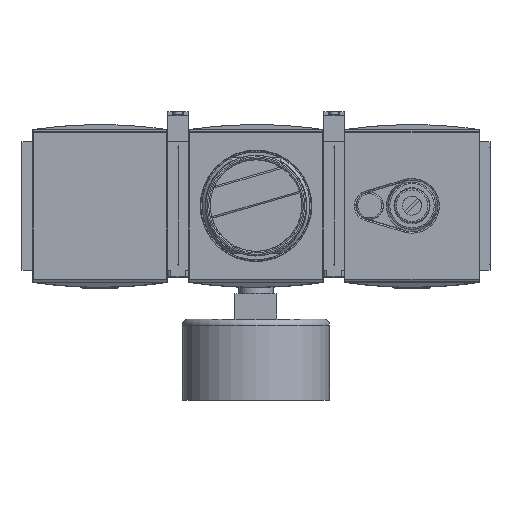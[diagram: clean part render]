
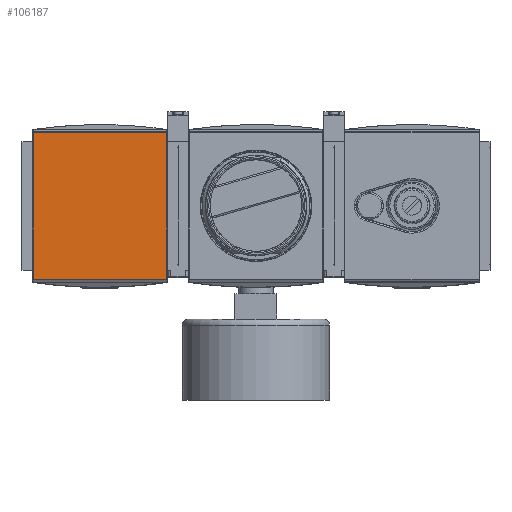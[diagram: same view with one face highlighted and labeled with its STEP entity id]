
A CAD part, top view. The second image highlights one B-rep face of the part: STEP entity #106187.
In plain terms, the highlighted planar face has unit normal (0, 0, 1).
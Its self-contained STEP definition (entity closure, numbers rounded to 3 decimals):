
#105971=CARTESIAN_POINT('',(-29.75,24.431,34.));
#105972=VERTEX_POINT('',#105971);
#106019=CARTESIAN_POINT('',(-29.75,-24.458,34.));
#106020=VERTEX_POINT('',#106019);
#106053=CARTESIAN_POINT('',(-29.75,24.431,34.));
#106054=DIRECTION('',(0.0,-1.0,0.0));
#106055=VECTOR('',#106054,48.889);
#106056=LINE('',#106053,#106055);
#106057=EDGE_CURVE('',#105972,#106020,#106056,.T.);
#106144=CARTESIAN_POINT('',(-74.25,-24.458,34.));
#106145=VERTEX_POINT('',#106144);
#106155=CARTESIAN_POINT('',(-29.75,-24.458,34.));
#106156=DIRECTION('',(-1.0,0.0,0.0));
#106157=VECTOR('',#106156,44.5);
#106158=LINE('',#106155,#106157);
#106159=EDGE_CURVE('',#106020,#106145,#106158,.T.);
#106164=CARTESIAN_POINT('',(-52.0,0.,34.));
#106165=DIRECTION('',(0.0,0.0,-1.0));
#106166=DIRECTION('',(0.0,1.0,0.0));
#106167=AXIS2_PLACEMENT_3D('',#106164,#106165,#106166);
#106168=PLANE('',#106167);
#106169=CARTESIAN_POINT('',(-74.25,24.431,34.));
#106170=VERTEX_POINT('',#106169);
#106171=CARTESIAN_POINT('',(-74.25,-24.458,34.));
#106172=DIRECTION('',(0.0,1.0,0.0));
#106173=VECTOR('',#106172,48.889);
#106174=LINE('',#106171,#106173);
#106175=EDGE_CURVE('',#106145,#106170,#106174,.T.);
#106176=ORIENTED_EDGE('',*,*,#106175,.F.);
#106177=ORIENTED_EDGE('',*,*,#106159,.F.);
#106178=ORIENTED_EDGE('',*,*,#106057,.F.);
#106179=CARTESIAN_POINT('',(-74.25,24.431,34.));
#106180=DIRECTION('',(1.0,0.0,0.0));
#106181=VECTOR('',#106180,44.5);
#106182=LINE('',#106179,#106181);
#106183=EDGE_CURVE('',#106170,#105972,#106182,.T.);
#106184=ORIENTED_EDGE('',*,*,#106183,.F.);
#106185=EDGE_LOOP('',(#106176,#106177,#106178,#106184));
#106186=FACE_OUTER_BOUND('',#106185,.T.);
#106187=ADVANCED_FACE('',(#106186),#106168,.F.);
